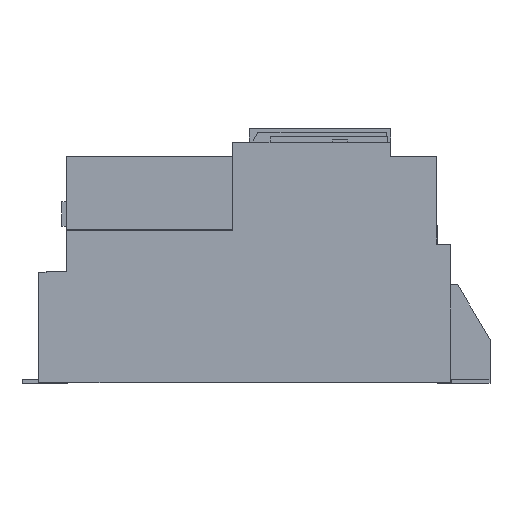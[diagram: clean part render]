
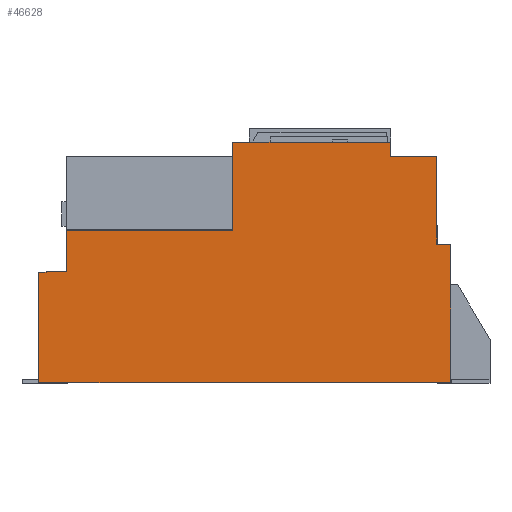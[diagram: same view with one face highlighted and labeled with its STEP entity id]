
A CAD part, left-side view. The second image highlights one B-rep face of the part: STEP entity #46628.
In plain terms, the highlighted planar face has unit normal (-1, 0, 0).
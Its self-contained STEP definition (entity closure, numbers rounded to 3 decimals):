
#8197=DIRECTION('',(0.,1.,0.));
#8198=VECTOR('',#8197,33.98);
#8199=CARTESIAN_POINT('',(0.,38.7,165.7));
#8200=LINE('',#8199,#8198);
#8204=DIRECTION('',(0.,0.,1.));
#8205=VECTOR('',#8204,64.101);
#8206=CARTESIAN_POINT('',(0.,38.7,101.599));
#8207=LINE('',#8206,#8205);
#8211=DIRECTION('',(0.,0.999,0.035));
#8212=VECTOR('',#8211,10.006);
#8213=CARTESIAN_POINT('',(0.,28.7,101.25));
#8214=LINE('',#8213,#8212);
#8218=DIRECTION('',(0.,0.,1.));
#8219=VECTOR('',#8218,100.55);
#8220=CARTESIAN_POINT('',(0.,28.7,0.7));
#8221=LINE('',#8220,#8219);
#8225=DIRECTION('',(0.,-1.,0.));
#8226=VECTOR('',#8225,300.);
#8227=CARTESIAN_POINT('',(0.,328.7,0.7));
#8228=LINE('',#8227,#8226);
#8232=DIRECTION('',(0.,0.,-1.));
#8233=VECTOR('',#8232,80.35);
#8234=CARTESIAN_POINT('',(0.,328.7,81.05));
#8235=LINE('',#8234,#8233);
#8239=DIRECTION('',(0.,0.999,-0.035));
#8240=VECTOR('',#8239,20.018);
#8241=CARTESIAN_POINT('',(0.,308.694,81.749));
#8242=LINE('',#8241,#8240);
#8246=DIRECTION('',(0.,0.,-1.));
#8247=VECTOR('',#8246,29.951);
#8248=CARTESIAN_POINT('',(0.,308.694,111.7));
#8249=LINE('',#8248,#8247);
#8253=DIRECTION('',(0.,-1.,0.));
#8254=VECTOR('',#8253,121.194);
#8255=CARTESIAN_POINT('',(0.,308.694,111.7));
#8256=LINE('',#8255,#8254);
#8260=DIRECTION('',(0.,0.018,-1.));
#8261=VECTOR('',#8260,10.002);
#8262=CARTESIAN_POINT('',(0.,187.319,175.7));
#8263=LINE('',#8262,#8261);
#8267=DIRECTION('',(0.,0.,-1.));
#8268=VECTOR('',#8267,10.);
#8269=CARTESIAN_POINT('',(0.,72.68,175.7));
#8270=LINE('',#8269,#8268);
#8848=DIRECTION('',(0.,1.,0.));
#8849=VECTOR('',#8848,114.639);
#8850=CARTESIAN_POINT('',(0.,72.68,175.7));
#8851=LINE('',#8850,#8849);
#10209=DIRECTION('',(0.,0.,-1.));
#10210=VECTOR('',#10209,54.);
#10211=CARTESIAN_POINT('',(0.,187.497,165.7));
#10212=LINE('',#10211,#10210);
#34015=CARTESIAN_POINT('',(0.,328.7,81.05));
#34016=CARTESIAN_POINT('',(0.,328.7,0.7));
#34017=VERTEX_POINT('',#34015);
#34018=VERTEX_POINT('',#34016);
#34019=CARTESIAN_POINT('',(0.,28.7,0.7));
#34020=VERTEX_POINT('',#34019);
#34021=CARTESIAN_POINT('',(0.,28.7,101.25));
#34022=VERTEX_POINT('',#34021);
#34023=CARTESIAN_POINT('',(0.,38.7,101.599));
#34024=VERTEX_POINT('',#34023);
#34025=CARTESIAN_POINT('',(0.,308.694,81.749));
#34026=VERTEX_POINT('',#34025);
#34059=CARTESIAN_POINT('',(0.,187.497,165.7));
#34061=VERTEX_POINT('',#34059);
#34067=CARTESIAN_POINT('',(0.,187.319,175.7));
#34068=VERTEX_POINT('',#34067);
#34071=CARTESIAN_POINT('',(0.,308.694,111.7));
#34072=CARTESIAN_POINT('',(0.,187.5,111.7));
#34073=VERTEX_POINT('',#34071);
#34074=VERTEX_POINT('',#34072);
#34077=CARTESIAN_POINT('',(0.,38.7,165.7));
#34078=CARTESIAN_POINT('',(0.,72.68,165.7));
#34079=VERTEX_POINT('',#34077);
#34080=VERTEX_POINT('',#34078);
#34145=CARTESIAN_POINT('',(0.,72.68,175.7));
#34146=VERTEX_POINT('',#34145);
#46601=CARTESIAN_POINT('',(0.,0.,0.));
#46602=DIRECTION('',(-1.,0.,0.));
#46603=DIRECTION('',(0.,0.,1.));
#46604=AXIS2_PLACEMENT_3D('',#46601,#46602,#46603);
#46605=PLANE('',#46604);
#46607=ORIENTED_EDGE('',*,*,#46606,.F.);
#46608=ORIENTED_EDGE('',*,*,#42201,.F.);
#46610=ORIENTED_EDGE('',*,*,#46609,.F.);
#46611=ORIENTED_EDGE('',*,*,#42919,.F.);
#46612=ORIENTED_EDGE('',*,*,#43194,.F.);
#46613=ORIENTED_EDGE('',*,*,#44617,.F.);
#46614=ORIENTED_EDGE('',*,*,#44555,.F.);
#46615=ORIENTED_EDGE('',*,*,#43804,.F.);
#46617=ORIENTED_EDGE('',*,*,#46616,.T.);
#46619=ORIENTED_EDGE('',*,*,#46618,.F.);
#46621=ORIENTED_EDGE('',*,*,#46620,.F.);
#46623=ORIENTED_EDGE('',*,*,#46622,.F.);
#46625=ORIENTED_EDGE('',*,*,#46624,.T.);
#46626=EDGE_LOOP('',(#46607,#46608,#46610,#46611,#46612,#46613,#46614,#46615,
#46617,#46619,#46621,#46623,#46625));
#46627=FACE_OUTER_BOUND('',#46626,.F.);
#42201=EDGE_CURVE('',#34024,#34079,#8207,.T.);
#42919=EDGE_CURVE('',#34020,#34022,#8221,.T.);
#43194=EDGE_CURVE('',#34018,#34020,#8228,.T.);
#43804=EDGE_CURVE('',#34073,#34026,#8249,.T.);
#44555=EDGE_CURVE('',#34026,#34017,#8242,.T.);
#44617=EDGE_CURVE('',#34017,#34018,#8235,.T.);
#46606=EDGE_CURVE('',#34079,#34080,#8200,.T.);
#46609=EDGE_CURVE('',#34022,#34024,#8214,.T.);
#46616=EDGE_CURVE('',#34073,#34074,#8256,.T.);
#46618=EDGE_CURVE('',#34061,#34074,#10212,.T.);
#46620=EDGE_CURVE('',#34068,#34061,#8263,.T.);
#46622=EDGE_CURVE('',#34146,#34068,#8851,.T.);
#46624=EDGE_CURVE('',#34146,#34080,#8270,.T.);
#46628=ADVANCED_FACE('',(#46627),#46605,.T.);
